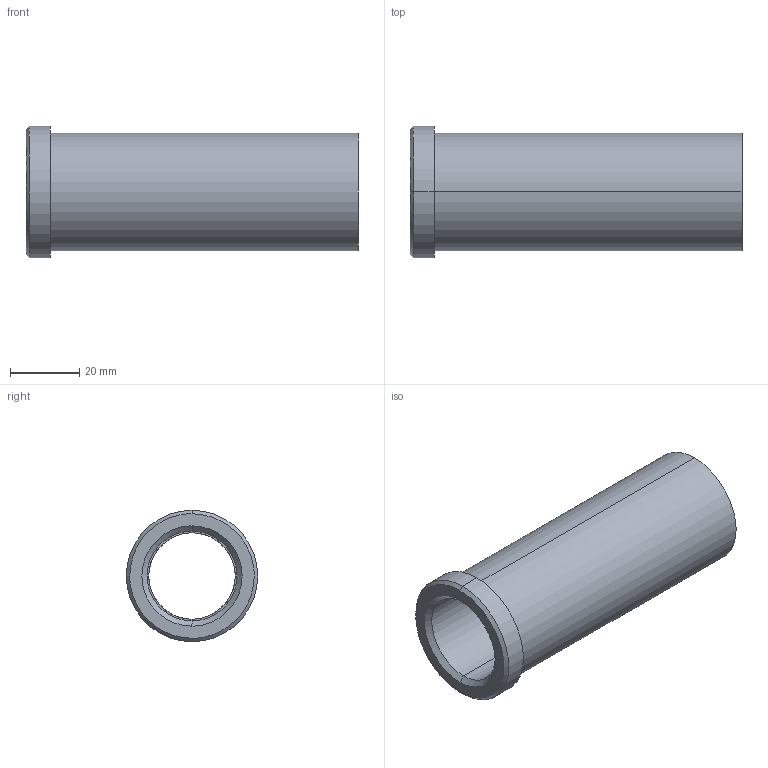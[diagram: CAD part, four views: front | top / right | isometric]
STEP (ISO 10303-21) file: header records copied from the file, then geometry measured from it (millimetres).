
FILE_DESCRIPTION(('CATIA V5 STEP Exchange'),'2;1');
FILE_NAME('C:\Users\Utente\Desktop\IO LAVORO\3D X SITO CF\X SITO\PLASTICA\353\353-25X96.stp','2021-05-12T18:39:32+00:00',('none'),('none'),'CATIA Version 5 Release 20 GA (IN-10)','CATIA V5 STEP AP203','none');
FILE_SCHEMA(('CONFIG_CONTROL_DESIGN'));
Length unit declared in the file: millimetre
Products named in the file (1): 353-25X96
Bounding box: 96 x 38 x 38 mm (x, y, z)
Volume: 39553.4 mm3; surface area: 19107.2 mm2
Topology: 1 solids, 1 shells, 18 faces, 58 edges, 44 vertices
Faces by surface type: cylinder 8, plane 4, cone 4, torus 2
Entity records: 840 total; most frequent: CARTESIAN_POINT 289, ORIENTED_EDGE 116, DIRECTION 82, EDGE_CURVE 58, AXIS2_PLACEMENT_3D 53, VERTEX_POINT 44, CIRCLE 34, EDGE_LOOP 22
